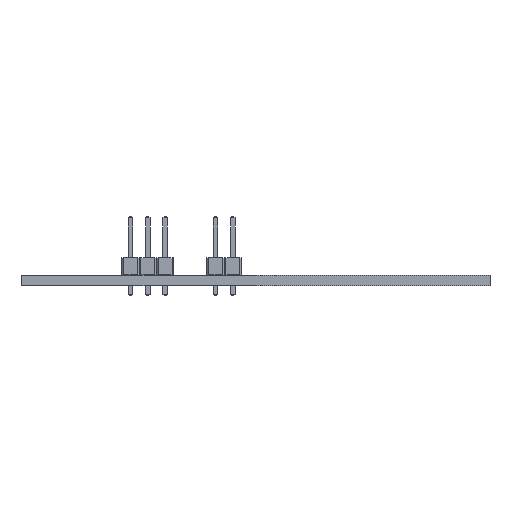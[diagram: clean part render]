
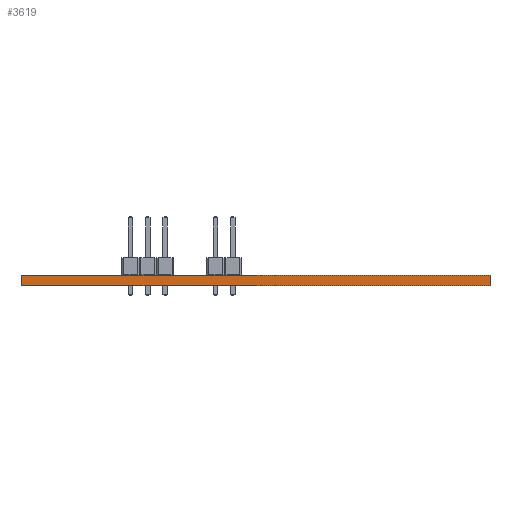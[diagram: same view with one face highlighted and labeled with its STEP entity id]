
A CAD part, front view. The second image highlights one B-rep face of the part: STEP entity #3619.
In plain terms, the highlighted planar face has unit normal (0, -1, 0).
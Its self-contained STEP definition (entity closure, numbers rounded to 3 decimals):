
#3619 = ADVANCED_FACE('',(#3620),#3654,.T.);
#3620 = FACE_BOUND('',#3621,.T.);
#3621 = EDGE_LOOP('',(#3622,#3632,#3640,#3648));
#3622 = ORIENTED_EDGE('',*,*,#3623,.T.);
#3623 = EDGE_CURVE('',#3624,#3626,#3628,.T.);
#3624 = VERTEX_POINT('',#3625);
#3625 = CARTESIAN_POINT('',(180.81,-142.17,0.));
#3626 = VERTEX_POINT('',#3627);
#3627 = CARTESIAN_POINT('',(180.81,-142.17,1.51));
#3628 = LINE('',#3629,#3630);
#3629 = CARTESIAN_POINT('',(180.81,-142.17,0.));
#3630 = VECTOR('',#3631,1.);
#3631 = DIRECTION('',(0.,0.,1.));
#3632 = ORIENTED_EDGE('',*,*,#3633,.T.);
#3633 = EDGE_CURVE('',#3626,#3634,#3636,.T.);
#3634 = VERTEX_POINT('',#3635);
#3635 = CARTESIAN_POINT('',(112.01,-142.17,1.51));
#3636 = LINE('',#3637,#3638);
#3637 = CARTESIAN_POINT('',(180.81,-142.17,1.51));
#3638 = VECTOR('',#3639,1.);
#3639 = DIRECTION('',(-1.,0.,0.));
#3640 = ORIENTED_EDGE('',*,*,#3641,.F.);
#3641 = EDGE_CURVE('',#3642,#3634,#3644,.T.);
#3642 = VERTEX_POINT('',#3643);
#3643 = CARTESIAN_POINT('',(112.01,-142.17,0.));
#3644 = LINE('',#3645,#3646);
#3645 = CARTESIAN_POINT('',(112.01,-142.17,0.));
#3646 = VECTOR('',#3647,1.);
#3647 = DIRECTION('',(0.,0.,1.));
#3648 = ORIENTED_EDGE('',*,*,#3649,.F.);
#3649 = EDGE_CURVE('',#3624,#3642,#3650,.T.);
#3650 = LINE('',#3651,#3652);
#3651 = CARTESIAN_POINT('',(180.81,-142.17,0.));
#3652 = VECTOR('',#3653,1.);
#3653 = DIRECTION('',(-1.,0.,0.));
#3654 = PLANE('',#3655);
#3655 = AXIS2_PLACEMENT_3D('',#3656,#3657,#3658);
#3656 = CARTESIAN_POINT('',(180.81,-142.17,0.));
#3657 = DIRECTION('',(0.,-1.,0.));
#3658 = DIRECTION('',(-1.,0.,0.));
